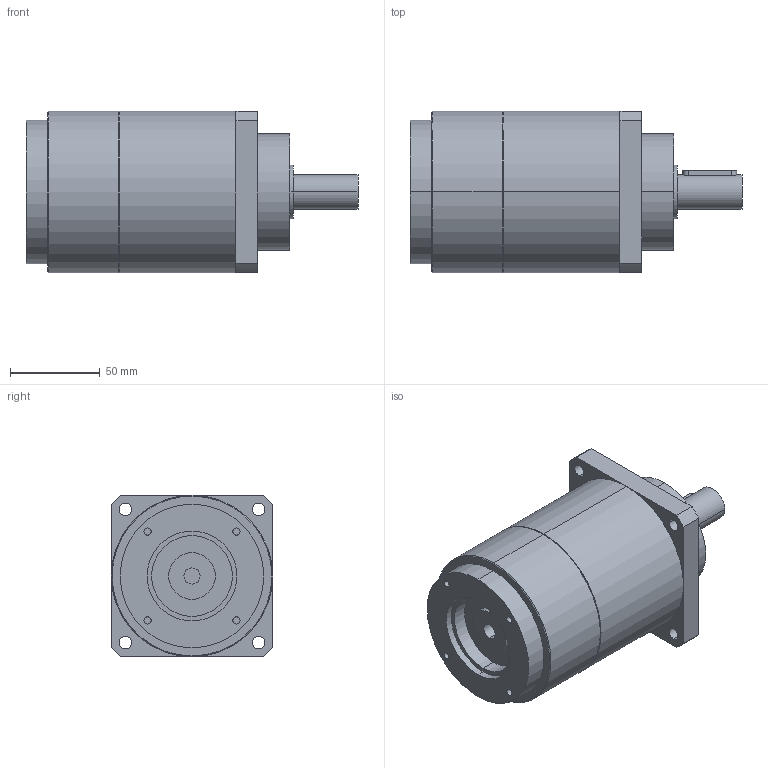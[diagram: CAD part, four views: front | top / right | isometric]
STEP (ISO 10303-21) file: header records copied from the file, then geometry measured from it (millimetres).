
FILE_DESCRIPTION(('CoCreate Modeling STEP Export'),'2;1');
FILE_NAME('GPT90_ig-9-12-16-20-25-28-35-40-50-70-100_19_B5T_9_P22.stp','2015-02-04T11:33:53',(''),(''),'CoCreate Modeling STEP processor for AP214 (Solid Model)','CoCreate Modeling 16.00C 25-Feb-2009 (C) Parametric Technology GmbH','');
FILE_SCHEMA(('AUTOMOTIVE_DESIGN { 1 0 10303 214 1 1 1 1 }'));
Length unit declared in the file: millimetre
Products named in the file (2): GPT90_ig-9-12-16-20-25-28-35-40-50-70-100_19_B5T_9_P22
Assembly tree (1 placements, depth 2):
  GPT90_ig-9-12-16-20-25-28-35-40-50-70-100_19_B5T_9_P22
    GPT90_ig-9-12-16-20-25-28-35-40-50-70-100_19_B5T_9_P22
Bounding box: 185 x 90 x 90 mm (x, y, z)
Volume: 872473.3 mm3; surface area: 63933 mm2
Topology: 1 solids, 1 shells, 75 faces, 190 edges, 131 vertices
Faces by surface type: cylinder 44, plane 27, cone 4
Entity records: 2388 total; most frequent: CARTESIAN_POINT 704, ORIENTED_EDGE 380, DIRECTION 282, EDGE_CURVE 190, VERTEX_POINT 131, AXIS2_PLACEMENT_3D 106, EDGE_LOOP 97, FACE_OUTER_BOUND 75
